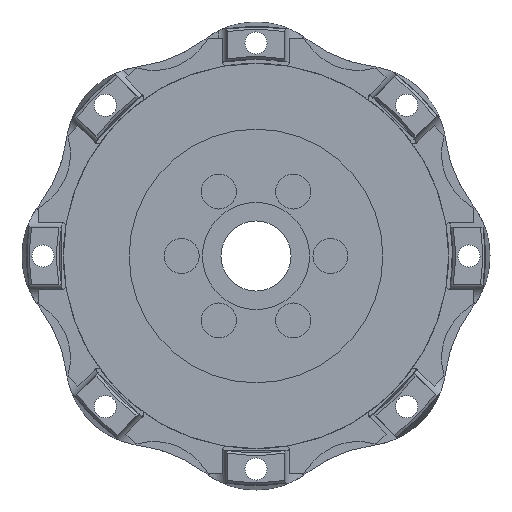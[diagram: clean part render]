
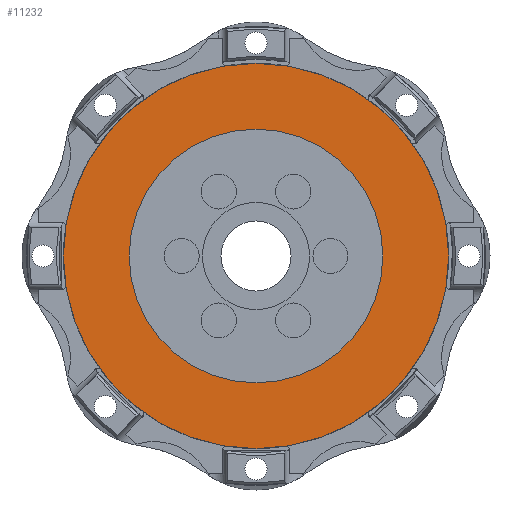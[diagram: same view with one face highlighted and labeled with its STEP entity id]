
A CAD part, left-side view. The second image highlights one B-rep face of the part: STEP entity #11232.
In plain terms, the highlighted planar face has unit normal (-1, 0, 0).
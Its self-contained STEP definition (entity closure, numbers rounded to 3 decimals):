
#156=PLANE('',#12134);
#3173=ORIENTED_EDGE('',*,*,#5710,.T.);
#3174=ORIENTED_EDGE('',*,*,#6414,.F.);
#5710=EDGE_CURVE('',#7443,#7443,#8626,.T.);
#6414=EDGE_CURVE('',#7930,#7930,#8899,.T.);
#7443=VERTEX_POINT('',#16197);
#7930=VERTEX_POINT('',#17699);
#8626=CIRCLE('',#11633,69.85);
#8899=CIRCLE('',#12133,45.974);
#9509=EDGE_LOOP('',(#3173));
#9510=EDGE_LOOP('',(#3174));
#10237=FACE_BOUND('',#9509,.T.);
#10238=FACE_BOUND('',#9510,.T.);
#11232=ADVANCED_FACE('',(#10237,#10238),#156,.T.);
#11633=AXIS2_PLACEMENT_3D('',#16196,#12890,#12891);
#12133=AXIS2_PLACEMENT_3D('',#17698,#14297,#14298);
#12134=AXIS2_PLACEMENT_3D('',#17700,#14299,#14300);
#12890=DIRECTION('',(-1.,0.,0.));
#12891=DIRECTION('',(0.,0.,1.));
#14297=DIRECTION('',(-1.,0.,0.));
#14298=DIRECTION('',(0.,0.,1.));
#14299=DIRECTION('',(-1.,0.,0.));
#14300=DIRECTION('',(0.,0.,1.));
#16196=CARTESIAN_POINT('',(2.515,0.,0.));
#16197=CARTESIAN_POINT('',(2.515,0.,69.85));
#17698=CARTESIAN_POINT('',(2.515,0.,0.));
#17699=CARTESIAN_POINT('',(2.515,0.,45.974));
#17700=CARTESIAN_POINT('',(2.515,0.,69.85));
